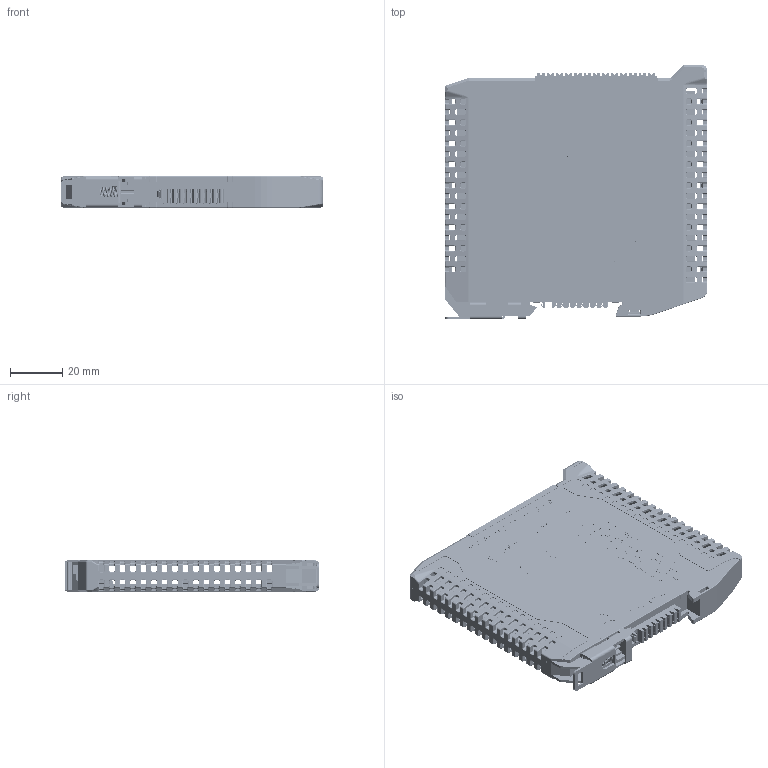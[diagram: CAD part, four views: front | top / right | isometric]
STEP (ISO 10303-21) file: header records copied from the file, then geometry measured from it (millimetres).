
FILE_DESCRIPTION((''),'2;1');
FILE_NAME('DAUDIN_GF2-SP01T_ASM','2023-06-29T',('Rex.Song'),(''),'CREO PARAMETRIC BY PTC INC, 2015480','CREO PARAMETRIC BY PTC INC, 2015480','');
FILE_SCHEMA(('CONFIG_CONTROL_DESIGN'));
Products named in the file (9): PCB_BS-521XND-076; 0173A06800_AF0; 0173B02000; C000004600_AF0; 0173A06900_AF0; BS-521XND-0762_ASM; DINKLE_BS-100_1; DINKLE_0138-51-6711-13L; DAUDIN_GF2-SP01T_ASM
Assembly tree (8 placements, depth 3):
  DAUDIN_GF2-SP01T_ASM
    BS-521XND-0762_ASM
      PCB_BS-521XND-076
      0173A06800_AF0
      0173B02000
      C000004600_AF0
      0173A06900_AF0
    DINKLE_BS-100_1
    DINKLE_0138-51-6711-13L
Bounding box: 100 x 97 x 12 mm (x, y, z)
Volume: 35193.3 mm3; surface area: 63565.4 mm2
Topology: 8 solids, 10 shells, 11346 faces, 32022 edges, 21982 vertices
Faces by surface type: plane 4707, cylinder 2889, extrusion 2442, bspline 743, torus 366, cone 142, sphere 52, revolution 5
Entity records: 462633 total; most frequent: CARTESIAN_POINT 167305, ORIENTED_EDGE 61692, DIRECTION 49415, EDGE_CURVE 30849, VECTOR 21774, VERTEX_POINT 19706, LINE 19332, AXIS2_PLACEMENT_3D 13818
